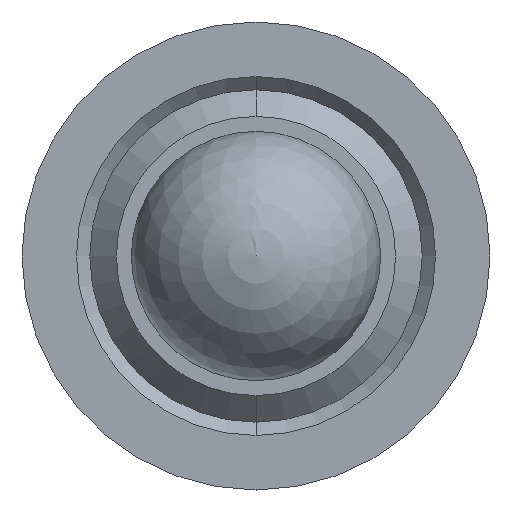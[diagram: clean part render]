
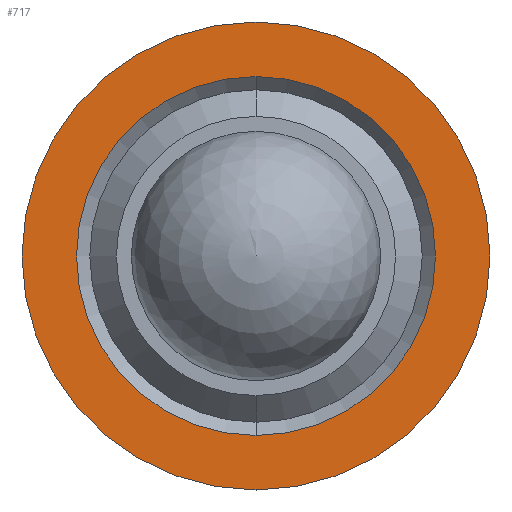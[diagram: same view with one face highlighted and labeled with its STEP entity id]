
A CAD part, left-side view. The second image highlights one B-rep face of the part: STEP entity #717.
In plain terms, the highlighted planar face has unit normal (-1, 0, 0).
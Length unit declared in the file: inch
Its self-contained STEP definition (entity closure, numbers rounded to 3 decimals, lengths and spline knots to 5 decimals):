
#67 = CARTESIAN_POINT ( 'NONE',  ( 0.09151, 0.8739, 1.05215 ) ) ;
#97 = CIRCLE ( 'NONE', #1244, 0.135 ) ;
#111 = CIRCLE ( 'NONE', #721, 0.176 ) ;
#208 = DIRECTION ( 'NONE',  ( 0., 0., -1. ) ) ;
#229 = DIRECTION ( 'NONE',  ( 1., 0., 0. ) ) ;
#235 = CARTESIAN_POINT ( 'NONE',  ( 0.09151, 0.8739, 1.18715 ) ) ;
#239 = VERTEX_POINT ( 'NONE', #1390 ) ;
#244 = DIRECTION ( 'NONE',  ( 1., 0., 0. ) ) ;
#286 = PLANE ( 'NONE',  #1133 ) ;
#341 = ORIENTED_EDGE ( 'NONE', *, *, #1276, .T. ) ;
#378 = CIRCLE ( 'NONE', #1081, 0.176 ) ;
#400 = DIRECTION ( 'NONE',  ( 0., 0., 1. ) ) ;
#480 = DIRECTION ( 'NONE',  ( -1., 0., 0. ) ) ;
#501 = EDGE_CURVE ( 'NONE', #1283, #847, #1147, .T. ) ;
#640 = AXIS2_PLACEMENT_3D ( 'NONE', #1424, #244, #1458 ) ;
#662 = DIRECTION ( 'NONE',  ( 1., 0., 0. ) ) ;
#665 = CARTESIAN_POINT ( 'NONE',  ( 0.09151, 0.8739, 1.18715 ) ) ;
#669 = DIRECTION ( 'NONE',  ( -1., 0., 0. ) ) ;
#717 = ADVANCED_FACE ( 'NONE', ( #1246, #1407 ), #286, .F. ) ;
#721 = AXIS2_PLACEMENT_3D ( 'NONE', #1136, #480, #945 ) ;
#767 = ORIENTED_EDGE ( 'NONE', *, *, #1062, .T. ) ;
#838 = VERTEX_POINT ( 'NONE', #1346 ) ;
#841 = CARTESIAN_POINT ( 'NONE',  ( 0.09151, 0.8739, 1.18715 ) ) ;
#847 = VERTEX_POINT ( 'NONE', #1320 ) ;
#945 = DIRECTION ( 'NONE',  ( 0., 0., 1. ) ) ;
#991 = EDGE_LOOP ( 'NONE', ( #341, #1241 ) ) ;
#1062 = EDGE_CURVE ( 'NONE', #838, #239, #111, .T. ) ;
#1081 = AXIS2_PLACEMENT_3D ( 'NONE', #665, #669, #400 ) ;
#1112 = DIRECTION ( 'NONE',  ( 0., 0., -1. ) ) ;
#1133 = AXIS2_PLACEMENT_3D ( 'NONE', #235, #229, #208 ) ;
#1136 = CARTESIAN_POINT ( 'NONE',  ( 0.09151, 0.8739, 1.18715 ) ) ;
#1147 = CIRCLE ( 'NONE', #640, 0.135 ) ;
#1230 = EDGE_CURVE ( 'NONE', #239, #838, #378, .T. ) ;
#1241 = ORIENTED_EDGE ( 'NONE', *, *, #501, .T. ) ;
#1244 = AXIS2_PLACEMENT_3D ( 'NONE', #841, #662, #1112 ) ;
#1246 = FACE_BOUND ( 'NONE', #991, .T. ) ;
#1276 = EDGE_CURVE ( 'NONE', #847, #1283, #97, .T. ) ;
#1283 = VERTEX_POINT ( 'NONE', #67 ) ;
#1320 = CARTESIAN_POINT ( 'NONE',  ( 0.09151, 0.8739, 1.32215 ) ) ;
#1346 = CARTESIAN_POINT ( 'NONE',  ( 0.09151, 0.8739, 1.01115 ) ) ;
#1390 = CARTESIAN_POINT ( 'NONE',  ( 0.09151, 0.8739, 1.36315 ) ) ;
#1404 = ORIENTED_EDGE ( 'NONE', *, *, #1230, .T. ) ;
#1407 = FACE_OUTER_BOUND ( 'NONE', #1520, .T. ) ;
#1424 = CARTESIAN_POINT ( 'NONE',  ( 0.09151, 0.8739, 1.18715 ) ) ;
#1458 = DIRECTION ( 'NONE',  ( 0., 0., -1. ) ) ;
#1520 = EDGE_LOOP ( 'NONE', ( #1404, #767 ) ) ;
